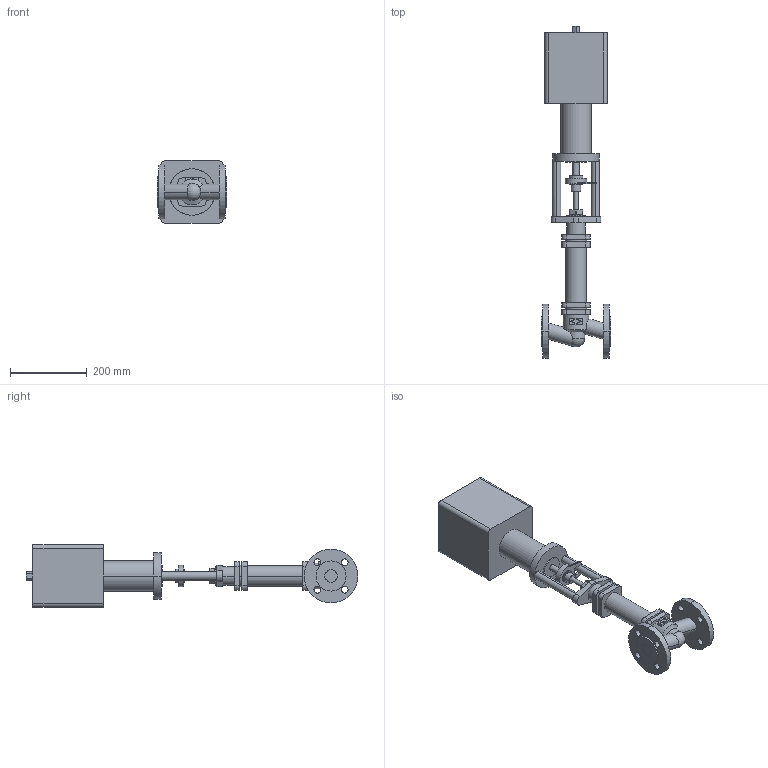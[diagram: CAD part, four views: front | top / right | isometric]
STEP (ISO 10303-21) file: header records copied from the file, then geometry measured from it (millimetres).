
FILE_DESCRIPTION( ( '' ), '1' );
FILE_NAME( 'F:/DE-SHS/TB/OR/04-Sonstiges/daten/files_3d/441-FR2.2/441-PN16-FR2_2/c000004548.stp', '2014-11-06T11:21:41', ( '' ), ( '' ), ' ', ' ', ' ' );
FILE_SCHEMA( ( 'CONFIG_CONTROL_DESIGN' ) );
Length unit declared in the file: millimetre
Products named in the file (2): 1; 2
Bounding box: 180 x 862.5 x 162 mm (x, y, z)
Volume: 7436428.4 mm3; surface area: 443361.2 mm2
Topology: 2 solids, 2 shells, 199 faces, 491 edges, 325 vertices
Faces by surface type: cylinder 100, plane 96, cone 2, sphere 1
Entity records: 6431 total; most frequent: CARTESIAN_POINT 1403, DIRECTION 1089, ORIENTED_EDGE 978, EDGE_CURVE 489, AXIS2_PLACEMENT_3D 413, VERTEX_POINT 325, LINE 263, VECTOR 263
